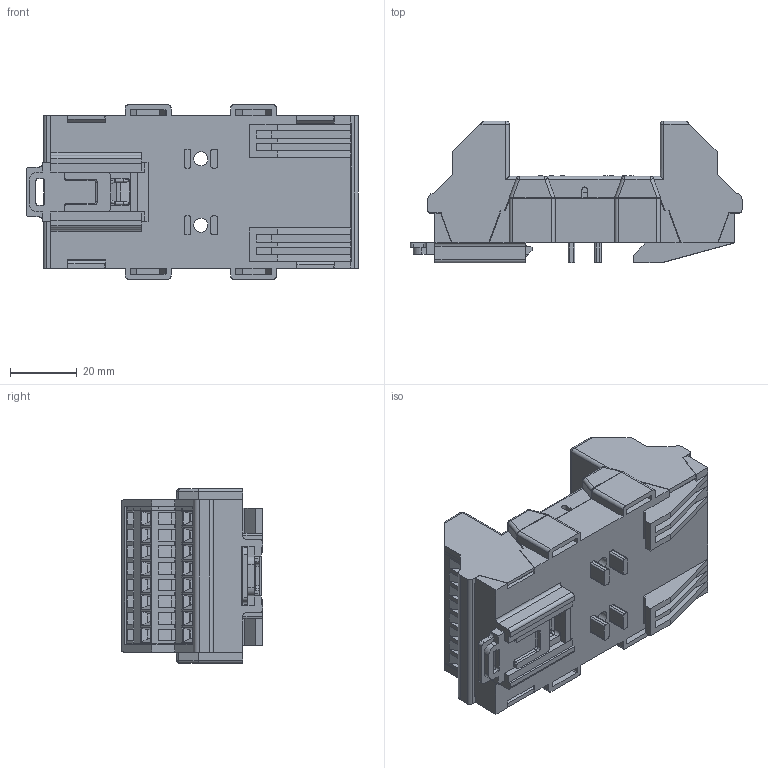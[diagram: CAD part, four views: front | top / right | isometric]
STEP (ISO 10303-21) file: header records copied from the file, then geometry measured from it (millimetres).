
FILE_DESCRIPTION((''),'2;1');
FILE_NAME('\\Ptr-tlsvr01\ak-projekte\2013\PIP\AK12-13_Mors-Smitt_INCS109_(EA111)\Zeichnungen\141031_ZB_INCS109.stp','2014-10-31T08:47:48',('swilken'),(''),'Autodesk Inventor 2011','Autodesk Inventor 2011','');
FILE_SCHEMA(('AUTOMOTIVE_DESIGN { 1 0 10303 214 1 1 1 1 }'));
Length unit declared in the file: millimetre
Products named in the file (1): 141031_ZB_INCS109
Bounding box: 99.7 x 42.53 x 52.5 mm (x, y, z)
Volume: 102113.6 mm3; surface area: 47066.8 mm2
Topology: 1 solids, 89 shells, 3939 faces, 10847 edges, 7078 vertices
Faces by surface type: plane 3060, cylinder 641, bspline 145, torus 61, cone 20, sphere 12
Full cylindrical faces by diameter (mm): 0.8 x8, 3.1 x4, 4.2 x2
Entity records: 128486 total; most frequent: CARTESIAN_POINT 24643, ORIENTED_EDGE 21602, DIRECTION 19403, EDGE_CURVE 10801, VECTOR 9037, LINE 9037, VERTEX_POINT 7066, AXIS2_PLACEMENT_3D 5183
